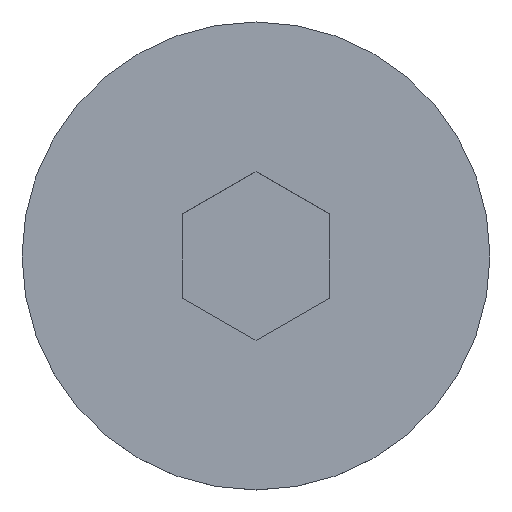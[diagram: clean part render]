
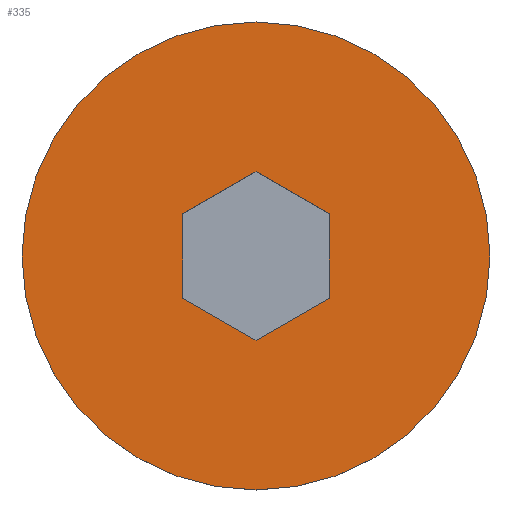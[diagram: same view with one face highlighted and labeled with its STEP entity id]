
A CAD part, top view. The second image highlights one B-rep face of the part: STEP entity #335.
In plain terms, the highlighted planar face has unit normal (0, 0, 1).
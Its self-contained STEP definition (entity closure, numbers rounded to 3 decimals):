
#9 = VECTOR ( 'NONE', #397, 1000. ) ;
#21 = FACE_OUTER_BOUND ( 'NONE', #257, .T. ) ;
#26 = CARTESIAN_POINT ( 'NONE',  ( 3., -1.732, 5.22 ) ) ;
#31 = ORIENTED_EDGE ( 'NONE', *, *, #331, .F. ) ;
#43 = DIRECTION ( 'NONE',  ( -0.866, -0.5, 0. ) ) ;
#54 = EDGE_CURVE ( 'NONE', #297, #196, #402, .T. ) ;
#55 = ORIENTED_EDGE ( 'NONE', *, *, #347, .F. ) ;
#56 = PLANE ( 'NONE',  #278 ) ;
#69 = CARTESIAN_POINT ( 'NONE',  ( 0., 0., 5.22 ) ) ;
#73 = LINE ( 'NONE', #179, #368 ) ;
#76 = CARTESIAN_POINT ( 'NONE',  ( 3., -1.732, 5.22 ) ) ;
#83 = CARTESIAN_POINT ( 'NONE',  ( 0., 3.464, 5.22 ) ) ;
#86 = CARTESIAN_POINT ( 'NONE',  ( -9.61, 0., 5.22 ) ) ;
#92 = EDGE_CURVE ( 'NONE', #196, #297, #442, .T. ) ;
#94 = LINE ( 'NONE', #26, #9 ) ;
#104 = CARTESIAN_POINT ( 'NONE',  ( 0., -3.464, 5.22 ) ) ;
#113 = CARTESIAN_POINT ( 'NONE',  ( 0., 3.464, 5.22 ) ) ;
#115 = VERTEX_POINT ( 'NONE', #104 ) ;
#127 = ORIENTED_EDGE ( 'NONE', *, *, #92, .F. ) ;
#131 = VECTOR ( 'NONE', #358, 1000. ) ;
#142 = AXIS2_PLACEMENT_3D ( 'NONE', #69, #213, #373 ) ;
#146 = LINE ( 'NONE', #387, #262 ) ;
#150 = EDGE_CURVE ( 'NONE', #403, #115, #328, .T. ) ;
#159 = VECTOR ( 'NONE', #210, 1000. ) ;
#165 = EDGE_LOOP ( 'NONE', ( #240, #31, #55, #371, #336, #434 ) ) ;
#175 = CARTESIAN_POINT ( 'NONE',  ( 3., 1.732, 5.22 ) ) ;
#179 = CARTESIAN_POINT ( 'NONE',  ( 3., 1.732, 5.22 ) ) ;
#186 = EDGE_CURVE ( 'NONE', #378, #246, #415, .T. ) ;
#189 = CARTESIAN_POINT ( 'NONE',  ( -3., -1.732, 5.22 ) ) ;
#192 = VERTEX_POINT ( 'NONE', #175 ) ;
#196 = VERTEX_POINT ( 'NONE', #220 ) ;
#199 = LINE ( 'NONE', #291, #131 ) ;
#203 = VERTEX_POINT ( 'NONE', #76 ) ;
#210 = DIRECTION ( 'NONE',  ( 0.866, -0.5, 0. ) ) ;
#213 = DIRECTION ( 'NONE',  ( 0., 0., -1. ) ) ;
#216 = EDGE_CURVE ( 'NONE', #192, #378, #73, .T. ) ;
#220 = CARTESIAN_POINT ( 'NONE',  ( 9.61, 0., 5.22 ) ) ;
#240 = ORIENTED_EDGE ( 'NONE', *, *, #216, .F. ) ;
#244 = DIRECTION ( 'NONE',  ( 0., 0., -1. ) ) ;
#246 = VERTEX_POINT ( 'NONE', #315 ) ;
#257 = EDGE_LOOP ( 'NONE', ( #340, #127 ) ) ;
#262 = VECTOR ( 'NONE', #364, 1000. ) ;
#270 = DIRECTION ( 'NONE',  ( -1., 0., 0. ) ) ;
#274 = VECTOR ( 'NONE', #43, 1000. ) ;
#278 = AXIS2_PLACEMENT_3D ( 'NONE', #86, #321, #298 ) ;
#291 = CARTESIAN_POINT ( 'NONE',  ( 0., -3.464, 5.22 ) ) ;
#297 = VERTEX_POINT ( 'NONE', #427 ) ;
#298 = DIRECTION ( 'NONE',  ( 1., 0., 0. ) ) ;
#305 = EDGE_CURVE ( 'NONE', #246, #403, #146, .T. ) ;
#315 = CARTESIAN_POINT ( 'NONE',  ( -3., 1.732, 5.22 ) ) ;
#317 = DIRECTION ( 'NONE',  ( -0.866, 0.5, 0. ) ) ;
#321 = DIRECTION ( 'NONE',  ( 0., 0., 1. ) ) ;
#328 = LINE ( 'NONE', #413, #159 ) ;
#329 = AXIS2_PLACEMENT_3D ( 'NONE', #382, #244, #270 ) ;
#331 = EDGE_CURVE ( 'NONE', #203, #192, #94, .T. ) ;
#335 = ADVANCED_FACE ( 'NONE', ( #394, #21 ), #56, .T. ) ;
#336 = ORIENTED_EDGE ( 'NONE', *, *, #305, .F. ) ;
#340 = ORIENTED_EDGE ( 'NONE', *, *, #54, .F. ) ;
#347 = EDGE_CURVE ( 'NONE', #115, #203, #199, .T. ) ;
#358 = DIRECTION ( 'NONE',  ( 0.866, 0.5, 0. ) ) ;
#364 = DIRECTION ( 'NONE',  ( 0., -1., 0. ) ) ;
#368 = VECTOR ( 'NONE', #317, 1000. ) ;
#371 = ORIENTED_EDGE ( 'NONE', *, *, #150, .F. ) ;
#373 = DIRECTION ( 'NONE',  ( -1., 0., 0. ) ) ;
#378 = VERTEX_POINT ( 'NONE', #83 ) ;
#382 = CARTESIAN_POINT ( 'NONE',  ( 0., 0., 5.22 ) ) ;
#387 = CARTESIAN_POINT ( 'NONE',  ( -3., 1.732, 5.22 ) ) ;
#394 = FACE_BOUND ( 'NONE', #165, .T. ) ;
#397 = DIRECTION ( 'NONE',  ( 0., 1., 0. ) ) ;
#402 = CIRCLE ( 'NONE', #329, 9.61 ) ;
#403 = VERTEX_POINT ( 'NONE', #189 ) ;
#413 = CARTESIAN_POINT ( 'NONE',  ( -3., -1.732, 5.22 ) ) ;
#415 = LINE ( 'NONE', #113, #274 ) ;
#427 = CARTESIAN_POINT ( 'NONE',  ( -9.61, 0., 5.22 ) ) ;
#434 = ORIENTED_EDGE ( 'NONE', *, *, #186, .F. ) ;
#442 = CIRCLE ( 'NONE', #142, 9.61 ) ;
